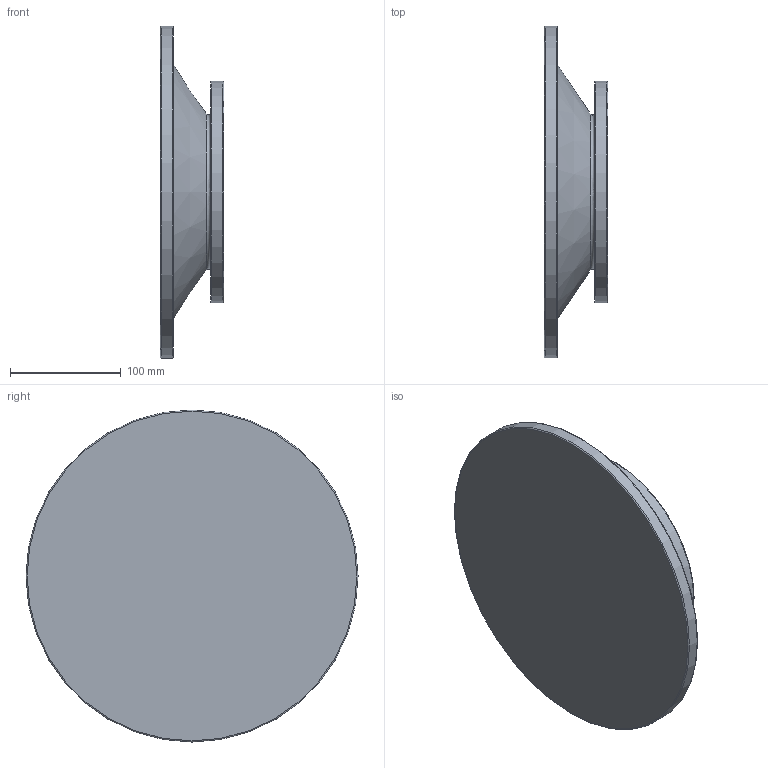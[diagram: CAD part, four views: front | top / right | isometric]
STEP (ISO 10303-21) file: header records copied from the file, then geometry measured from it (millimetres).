
FILE_DESCRIPTION((''),'2;1');
FILE_NAME('D:\PAWEŁ\ZLECENIA\2011 DualSystem\Przekładnie DR\DR90\STEP\80_B5_L57,5.stp','2012-06-11T12:23:00',('admin'),(''),'Autodesk Inventor 2009','Autodesk Inventor 2009','');
FILE_SCHEMA(('AUTOMOTIVE_DESIGN { 1 0 10303 214 1 1 1 1 }'));
Length unit declared in the file: millimetre
Products named in the file (1): 80_B5_L57,5
Bounding box: 57.5 x 300 x 300 mm (x, y, z)
Volume: 1329697.2 mm3; surface area: 265394.6 mm2
Topology: 1 solids, 1 shells, 32 faces, 62 edges, 38 vertices
Faces by surface type: plane 12, cylinder 7, bspline 6, torus 5, cone 2
Full cylindrical faces by diameter (mm): 39 x1, 108.441 x1, 130 x1, 200 x1, 300 x1
Entity records: 945 total; most frequent: CARTESIAN_POINT 289, DIRECTION 130, ORIENTED_EDGE 88, EDGE_LOOP 64, AXIS2_PLACEMENT_3D 59, EDGE_CURVE 44, VERTEX_POINT 38, FACE_OUTER_BOUND 32
